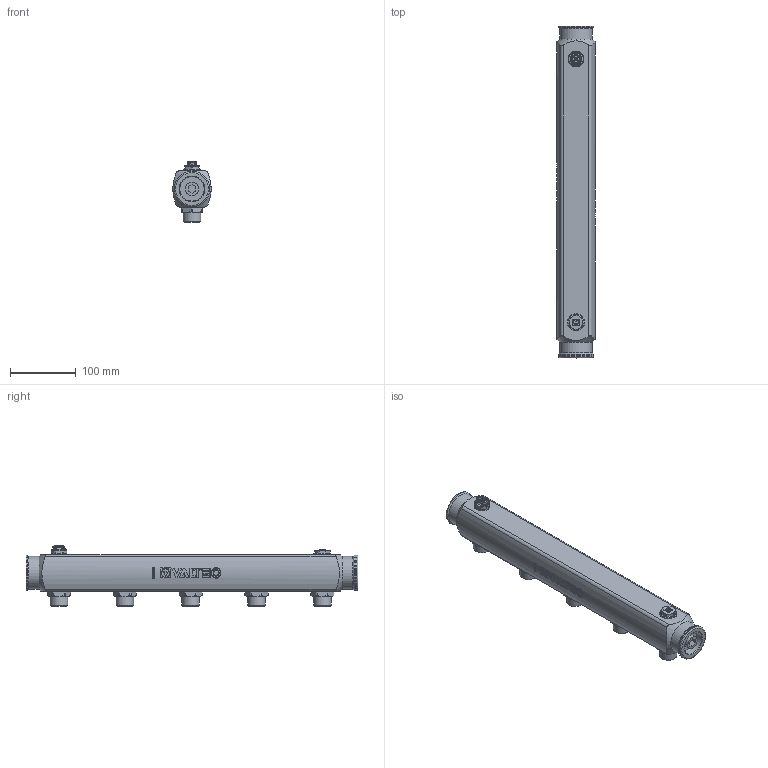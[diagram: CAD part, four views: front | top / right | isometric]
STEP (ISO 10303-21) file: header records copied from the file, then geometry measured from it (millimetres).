
FILE_DESCRIPTION(('STEP AP203'), '1');
FILE_NAME('VTc.510.SS.080505', '', ('UNSPECIFIED'), ('UNSPECIFIED'), 'C3D Converter', 'C3D Toolkit', '');
FILE_SCHEMA(('CONFIG_CONTROL_DESIGN'));
Length unit declared in the file: millimetre
Bounding box: 58 x 504 x 91.6 mm (x, y, z)
Volume: 1434449.8 mm3; surface area: 129790.5 mm2
Topology: 1 solids, 5 shells, 950 faces, 2422 edges, 1553 vertices
Faces by surface type: plane 383, extrusion 216, cylinder 151, cone 117, bspline 67, torus 16
Full cylindrical faces by diameter (mm): 5 x1, 10.2 x1, 19.5 x5, 20 x1, 22 x1, 24 x1, 26 x1, 26.441 x5, 37 x1, 44.85 x1, 50 x2, 54 x3
Entity records: 52244 total; most frequent: CARTESIAN_POINT 31741, ORIENTED_EDGE 4666, DIRECTION 3281, EDGE_CURVE 2333, VERTEX_POINT 1535, VECTOR 1163, B_SPLINE_CURVE_WITH_KNOTS 1122, AXIS2_PLACEMENT_3D 1059
